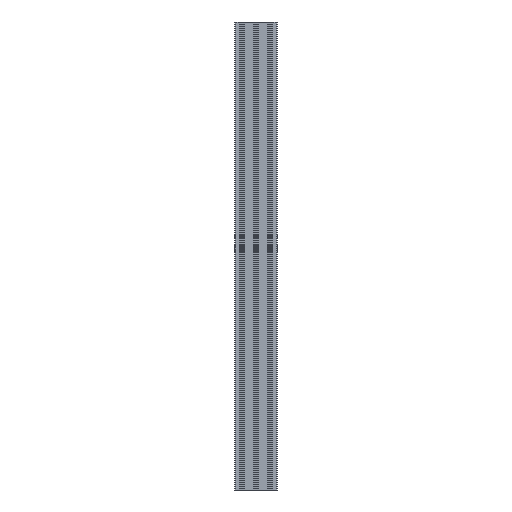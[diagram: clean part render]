
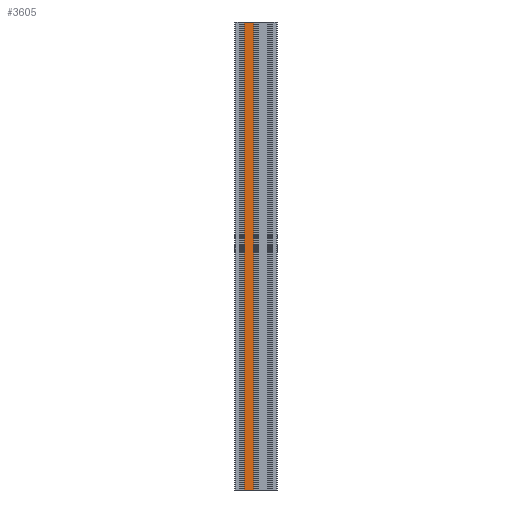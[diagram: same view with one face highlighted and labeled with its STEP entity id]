
A CAD part, front view. The second image highlights one B-rep face of the part: STEP entity #3605.
In plain terms, the highlighted planar face has unit normal (0, -1, 0).
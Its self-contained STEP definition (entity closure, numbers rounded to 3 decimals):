
#261 = DIRECTION ( 'NONE',  ( -1., 0., 0. ) ) ;
#490 = CARTESIAN_POINT ( 'NONE',  ( 25., -15.006, 1000. ) ) ;
#655 = DIRECTION ( 'NONE',  ( 1., 0., 0. ) ) ;
#806 = CARTESIAN_POINT ( 'NONE',  ( 25., -15.006, 0. ) ) ;
#980 = LINE ( 'NONE', #8211, #4424 ) ;
#1119 = FACE_OUTER_BOUND ( 'NONE', #8337, .T. ) ;
#1346 = CARTESIAN_POINT ( 'NONE',  ( 25., -15.006, 1000. ) ) ;
#1888 = ORIENTED_EDGE ( 'NONE', *, *, #6540, .T. ) ;
#1952 = EDGE_CURVE ( 'NONE', #7497, #2707, #4624, .T. ) ;
#2707 = VERTEX_POINT ( 'NONE', #806 ) ;
#2798 = CARTESIAN_POINT ( 'NONE',  ( 5., -15.006, 1000. ) ) ;
#2930 = VERTEX_POINT ( 'NONE', #490 ) ;
#3349 = DIRECTION ( 'NONE',  ( 0., 0., -1. ) ) ;
#3592 = ORIENTED_EDGE ( 'NONE', *, *, #8491, .F. ) ;
#3605 = ADVANCED_FACE ( 'NONE', ( #1119 ), #7863, .F. ) ;
#3613 = ORIENTED_EDGE ( 'NONE', *, *, #1952, .T. ) ;
#3697 = CARTESIAN_POINT ( 'NONE',  ( 25., -15.006, 1000. ) ) ;
#4414 = DIRECTION ( 'NONE',  ( 0., 1., 0. ) ) ;
#4424 = VECTOR ( 'NONE', #3349, 1000. ) ;
#4477 = VECTOR ( 'NONE', #5514, 1000. ) ;
#4624 = LINE ( 'NONE', #7112, #6460 ) ;
#4717 = CARTESIAN_POINT ( 'NONE',  ( 5., -15.006, 0. ) ) ;
#4829 = CARTESIAN_POINT ( 'NONE',  ( 25., -15.006, 1000. ) ) ;
#5481 = LINE ( 'NONE', #1346, #7340 ) ;
#5514 = DIRECTION ( 'NONE',  ( 0., 0., -1. ) ) ;
#5585 = ORIENTED_EDGE ( 'NONE', *, *, #6035, .F. ) ;
#6035 = EDGE_CURVE ( 'NONE', #7599, #2930, #5481, .T. ) ;
#6460 = VECTOR ( 'NONE', #7837, 1000. ) ;
#6535 = LINE ( 'NONE', #4829, #4477 ) ;
#6540 = EDGE_CURVE ( 'NONE', #7599, #7497, #980, .T. ) ;
#7112 = CARTESIAN_POINT ( 'NONE',  ( 25., -15.006, 0. ) ) ;
#7340 = VECTOR ( 'NONE', #655, 1000. ) ;
#7497 = VERTEX_POINT ( 'NONE', #4717 ) ;
#7599 = VERTEX_POINT ( 'NONE', #2798 ) ;
#7837 = DIRECTION ( 'NONE',  ( 1., 0., 0. ) ) ;
#7863 = PLANE ( 'NONE',  #8295 ) ;
#8211 = CARTESIAN_POINT ( 'NONE',  ( 5., -15.006, 1000. ) ) ;
#8295 = AXIS2_PLACEMENT_3D ( 'NONE', #3697, #4414, #261 ) ;
#8337 = EDGE_LOOP ( 'NONE', ( #3613, #3592, #5585, #1888 ) ) ;
#8491 = EDGE_CURVE ( 'NONE', #2930, #2707, #6535, .T. ) ;
